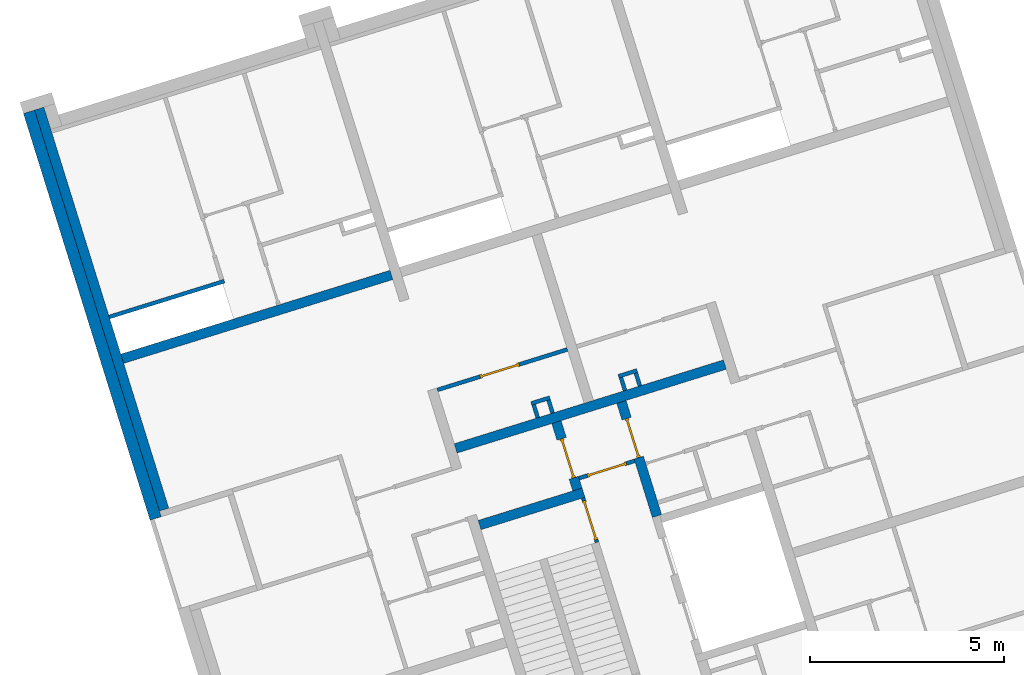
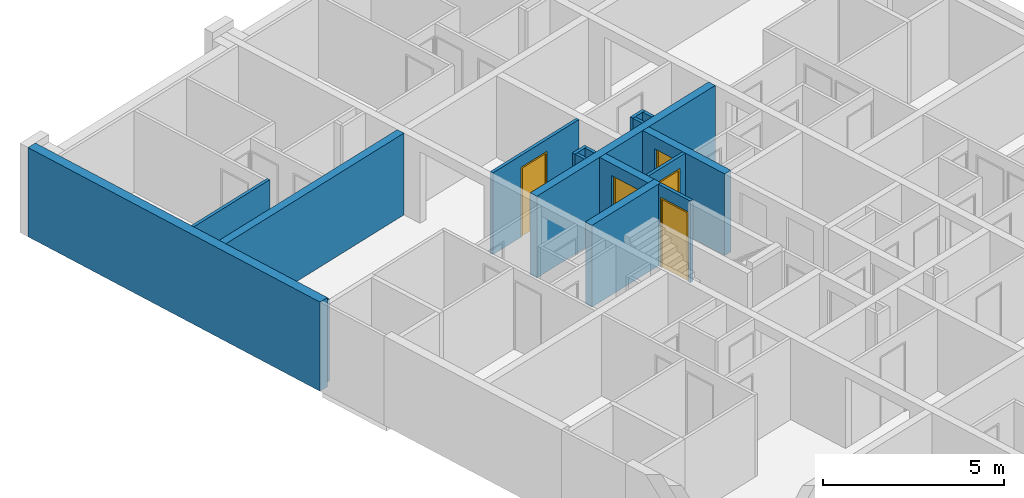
# One storey, part 5 of 12: 17 walls, 5 doors, 5 openings.
"""IFC4 building model written with IfcOpenShell, lengths in metres."""

from ifc_helpers import new_model, entity, si_unit, converted_unit, direction, frame, origin, place, context, subcontext, project, spatial, indexed_curve, outline, extrude, polygons, source, transform, mapped, material, constituent, constituent_set, type_object, type_shapes, element, fill, save


model = new_model("IFC4")

# Units and contexts
model_context = context("Model", 3, precision=1e-05, world=origin(), true_north=direction((6.12323399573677e-17, 1.0)))
body_context = subcontext(model_context, "Body", "Model", "MODEL_VIEW")
ifc_project = project(units=[si_unit("LENGTHUNIT", "METRE"), si_unit("AREAUNIT", "SQUARE_METRE"), converted_unit("PLANEANGLEUNIT", "DEGREE", entity("IfcPlaneAngleMeasure", 0.0174532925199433), si_unit("PLANEANGLEUNIT", "RADIAN"), dimensions=[0, 0, 0, 0, 0, 0, 0]), si_unit("VOLUMEUNIT", "CUBIC_METRE")], contexts=[model_context])

# Site, building, storey
site_placement = place(None, frame((13.1347999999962, 11.9886000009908, 0.0), z_axis=(0.0, 0.0, 1.0), x_axis=(0.954770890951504, 0.297342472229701, 0.0)))
site = spatial("IfcSite", under=ifc_project, at=site_placement, Name="Schiehaven", CompositionType="ELEMENT")
building_placement = place(site_placement, origin())
building = spatial("IfcBuilding", under=site, at=building_placement, Name="VORM huis", CompositionType="ELEMENT")
storey_placement = place(building_placement, frame((0.0, 0.0, 3.9)))
storey = spatial("IfcBuildingStorey", under=building, at=storey_placement, Name="01 eerste verdieping", CompositionType="ELEMENT", Elevation=3.9)

# Walls
ifc_material_1 = material(Name="beton_gewapend_ihw", Category="Miscellaneous")
wall_type_1 = type_object("IfcWallType", Name="Basic Wall:28_WA_skelet_wand 250mm_gen", PredefinedType="STANDARD")
wall_1_placement = place(storey_placement, frame((72.3750000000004, 22.2, 0.0), z_axis=(0.0, 0.0, 1.0), x_axis=(-1.0, 0.0, 0.0)))
element("IfcWall", 1, at=wall_1_placement, inside=storey, type_object=wall_type_1, material=ifc_material_1, Name="Constructieve wand", ObjectType="Wand", PredefinedType="NOTDEFINED", context=body_context, shape_type="SweptSolid", body=[
    extrude(outline(indexed_curve([(7.25000000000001, 0.125000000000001), (5.45998213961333e-16, 0.125000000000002), (-5.45998213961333e-16, -0.125000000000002), (7.25000000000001, -0.125000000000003), (7.25000000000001, 0.125000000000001)], self_intersect=False)), origin(), (0.0, 0.0, 1.0), 2.75),
])
wall_2_placement = place(storey_placement, frame((57.5000000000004, 22.9249999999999, 0.0), z_axis=(0.0, 0.0, 1.0), x_axis=(0.0, 1.0, 0.0)))
element("IfcWall", 2, at=wall_2_placement, inside=storey, type_object=wall_type_1, material=ifc_material_1, Name="Constructieve wand", ObjectType="Wand", PredefinedType="NOTDEFINED", context=body_context, shape_type="SweptSolid", body=[
    extrude(outline(indexed_curve([(10.8000000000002, 0.124999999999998), (0.0, 0.124999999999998), (0.0, -0.124999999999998), (10.8000000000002, -0.124999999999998), (10.8000000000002, 0.124999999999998)], self_intersect=False)), origin(), (0.0, 0.0, 1.0), 2.75),
])
ifc_material_2 = material(Name="ntb_ntb_ntb", Category="Miscellaneous")
wall_type_2 = type_object("IfcWallType", Name="Basic Wall: 300mm_gen", PredefinedType="STANDARD")
wall_3_placement = place(storey_placement, frame((57.2250000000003, 22.7749999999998, 0.0), z_axis=(0.0, 0.0, 1.0), x_axis=(0.0, 1.0, 0.0)))
element("IfcWall", 3, at=wall_3_placement, inside=storey, type_object=wall_type_2, material=ifc_material_2, Name="Gevelwand", ObjectType="Wand", PredefinedType="NOTDEFINED", context=body_context, shape_type="SweptSolid", body=[
    extrude(outline(indexed_curve([(10.9500000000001, 0.150000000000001), (5.85333583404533e-16, 0.150000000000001), (-5.85333583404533e-16, -0.150000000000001), (10.9500000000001, -0.15), (10.9500000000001, 0.150000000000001)], self_intersect=False)), origin(), (0.0, 0.0, 1.0), 3.0),
])
wall_type_3 = type_object("IfcWallType", Name="Basic Wall:22_WA_afbouw_binnenwand 250mm_gen", PredefinedType="STANDARD")
wall_4_placement = place(storey_placement, frame((65.1250000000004, 20.135, 0.0)))
element("IfcWall", 4, at=wall_4_placement, inside=storey, type_object=wall_type_3, material=ifc_material_2, Name="Binnenwand", ObjectType="Wand", PredefinedType="NOTDEFINED", context=body_context, shape_type="SweptSolid", body=[
    extrude(outline(indexed_curve([(2.80000000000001, 0.124999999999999), (4.98902105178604e-16, 0.125000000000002), (-4.98902105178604e-16, -0.125000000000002), (2.8, -0.125000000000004), (2.80000000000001, 0.124999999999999)], self_intersect=False)), origin(), (0.0, 0.0, 1.0), 2.75),
])

# Wall, opening, door
wall_5_placement = place(storey_placement, frame((67.8000000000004, 20.26, 0.0), z_axis=(0.0, 0.0, 1.0), x_axis=(0.0, 1.0, 0.0)))
wall_5 = element("IfcWall", 5, at=wall_5_placement, inside=storey, type_object=wall_type_3, material=ifc_material_2, Name="Binnenwand", ObjectType="Wand", PredefinedType="NOTDEFINED", context=body_context, shape_type="Tessellation", body=[
    polygons([(1.36499999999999, -0.12500000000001, 2.34999999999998), (1.36499999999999, -0.12500000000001, -5.41433564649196e-16), (1.81499999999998, -0.125000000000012, -5.41433564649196e-16), (1.81499999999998, -0.125000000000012, 2.75), (0.315000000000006, -0.125000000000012, 2.75), (0.215000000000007, -0.125000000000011, 2.75), (-4.33146851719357e-15, -0.12500000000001, 2.75), (-4.33146851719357e-15, -0.12500000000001, -5.41433564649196e-16), (0.215000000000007, -0.125000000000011, 0.0), (0.314999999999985, -0.125000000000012, -5.41433564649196e-16), (0.314999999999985, -0.125000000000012, 2.34999999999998), (1.81499999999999, 0.124999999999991, -5.41433564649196e-16), (1.36499999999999, 0.124999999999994, -5.41433564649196e-16), (1.36499999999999, 0.124999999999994, 2.34999999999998), (0.314999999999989, 0.125000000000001, 2.34999999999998), (0.314999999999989, 0.125000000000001, -5.41433564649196e-16), (0.0, 0.125000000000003, -5.41433564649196e-16), (0.0, 0.125000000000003, 2.75), (1.81499999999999, 0.124999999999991, 2.75)], [[[1, 2, 3, 4, 5, 6, 7, 8, 9, 10, 11]], [[12, 13, 14, 15, 16, 17, 18, 19]], [[10, 9, 8, 17, 16]], [[4, 3, 12, 19]], [[7, 6, 5, 4, 19, 18]], [[16, 15, 11, 10]], [[14, 13, 2, 1]], [[15, 14, 1, 11]], [[8, 7, 18, 17]], [[3, 2, 13, 12]]], closed=True),
])
opening_1_placement = place(wall_5_placement, frame((1.36499999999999, 0.125000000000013, 0.0)))
opening_1 = element("IfcOpeningElement", 6, at=opening_1_placement, cuts=wall_5, Name="Woningtoegangsdeur", PredefinedType="OPENING", context=body_context, shape_type="SweptSolid", body=[
    extrude(outline(indexed_curve([(2.34999999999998, 1.05), (0.0, 1.05), (0.0, 3.98354849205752e-29), (2.34999999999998, 3.98354849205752e-29), (2.34999999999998, 1.05)], self_intersect=False)), frame((0.0, 0.0, 0.0), z_axis=(0.0, -1.0, 0.0), x_axis=(0.0, 0.0, 1.0)), (0.0, 0.0, 1.0), 0.25),
])
ifc_material_3 = material(Name="PD_a_binnenwandopeningen", Category="Miscellaneous")
ifc_constituent_1 = constituent(ifc_material_3, Name="PD_a_binnenwandopeningen", Category="Miscellaneous")
ifc_material_4 = material(Name="metaal_aluminium_ntb", Category="Miscellaneous")
ifc_constituent_2 = constituent(ifc_material_4, Name="metaal_aluminium_ntb", Category="Miscellaneous")
ifc_constituent_set_1 = constituent_set(constituents=[ifc_constituent_1, ifc_constituent_2])
ifc_constituent_3 = constituent(ifc_material_3, Name="PD_a_binnenwandopeningen", Category="Miscellaneous")
ifc_constituent_4 = constituent(ifc_material_4, Name="Panel", Category="Miscellaneous")
ifc_constituent_set_2 = constituent_set(constituents=[ifc_constituent_3, ifc_constituent_4])
door_type_1 = type_object("IfcDoorType", Name="32_DO_binnendeur enkel:woningtoegangsdeur", OperationType="REVOLVING", PredefinedType="DOOR", material=ifc_constituent_set_2)
shared_shape_1 = source(origin(), body_context, "Body", "SweptSolid", [
    extrude(outline(indexed_curve([(-1.16249999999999, -0.525000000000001), (1.18749999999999, -0.525), (1.18749999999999, 0.525000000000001), (-1.16249999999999, 0.525000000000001), (-1.16249999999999, 0.475), (1.13749999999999, 0.475), (1.13749999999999, -0.475), (-1.16249999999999, -0.475), (-1.16249999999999, -0.525000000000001)], self_intersect=False)), frame((0.525000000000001, 0.0749999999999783, 1.16249999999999), z_axis=(0.0, 1.0, 0.0), x_axis=(0.0, 0.0, 1.0)), (0.0, 0.0, 1.0), 0.1),
    extrude(outline(indexed_curve([(-0.025, -0.475), (0.025, -0.475), (0.025, 0.475), (-0.025, 0.475), (-0.025, -0.475)], self_intersect=False)), frame((0.525000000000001, 0.12499999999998, 0.0), z_axis=(0.0, 0.0, 1.0), x_axis=(0.0, 1.0, 0.0)), (0.0, 0.0, 1.0), 2.29999999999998),
])
type_shapes(door_type_1, [shared_shape_1])
door_1_placement = place(opening_1_placement, frame((0.0, 0.0, 0.0), z_axis=(0.0, 0.0, 1.0), x_axis=(-1.0, 0.0, 0.0)))
door_1 = element("IfcDoor", 7, at=door_1_placement, inside=storey, type_object=door_type_1, material=ifc_constituent_set_1, Name="Woningtoegangsdeur", ObjectType="Deur", OperationType="REVOLVING", OverallHeight=2.34999999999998, OverallWidth=1.05, PredefinedType="DOOR", context=body_context, shape_type="MappedRepresentation", body=[
    mapped(shared_shape_1, transform((0.0, 0.0, 0.0), scale=1.0)),
])
fill(opening_1, door_1)

wall_6_placement = place(storey_placement, frame((69.5500000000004, 19.0, 0.0), z_axis=(0.0, 0.0, 1.0), x_axis=(0.0, 1.0, 0.0)))
wall_6 = element("IfcWall", 8, at=wall_6_placement, inside=storey, type_object=wall_type_3, material=ifc_material_2, Name="Binnenwand", ObjectType="Wand", PredefinedType="NOTDEFINED", context=body_context, shape_type="Tessellation", body=[
    polygons([(2.62500000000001, -0.125000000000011, 2.34999999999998), (2.62500000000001, -0.125000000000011, -5.41433564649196e-16), (3.07499999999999, -0.125000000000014, -5.41433564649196e-16), (3.07499999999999, -0.125000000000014, 2.75), (2.16573425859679e-15, -0.125000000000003, 2.75), (2.16573425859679e-15, -0.125000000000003, -5.41433564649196e-16), (1.575, -0.125000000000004, -5.41433564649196e-16), (1.575, -0.125000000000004, 2.34999999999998), (3.075, 0.124999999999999, -5.41433564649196e-16), (2.62500000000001, 0.125000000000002, -5.41433564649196e-16), (2.62500000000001, 0.125000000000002, 2.34999999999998), (1.575, 0.125, 2.34999999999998), (1.575, 0.125, -5.41433564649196e-16), (1.47500000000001, 0.125, 0.0), (0.0, 0.125000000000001, -5.41433564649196e-16), (0.0, 0.125000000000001, 2.75), (1.47500000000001, 0.125, 2.75), (1.57500000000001, 0.125, 2.75), (3.075, 0.124999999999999, 2.75)], [[[1, 2, 3, 4, 5, 6, 7, 8]], [[9, 10, 11, 12, 13, 14, 15, 16, 17, 18, 19]], [[7, 6, 15, 14, 13]], [[4, 3, 9, 19]], [[5, 4, 19, 18, 17, 16]], [[6, 5, 16, 15]], [[13, 12, 8, 7]], [[11, 10, 2, 1]], [[12, 11, 1, 8]], [[3, 2, 10, 9]]], closed=True),
])
opening_2_placement = place(wall_6_placement, frame((1.57500000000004, -0.124999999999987, 0.0)))
opening_2 = element("IfcOpeningElement", 9, at=opening_2_placement, cuts=wall_6, Name="Woningtoegangsdeur", PredefinedType="OPENING", context=body_context, shape_type="SweptSolid", body=[
    extrude(outline(indexed_curve([(2.34999999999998, 4.05964127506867e-29), (2.34999999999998, 1.05), (0.0, 1.05), (0.0, 4.05964127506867e-29), (2.34999999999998, 4.05964127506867e-29)], self_intersect=False)), frame((0.0, 0.0, 0.0), z_axis=(0.0, 1.0, 0.0), x_axis=(0.0, 0.0, 1.0)), (0.0, 0.0, 1.0), 0.25),
])
ifc_constituent_5 = constituent(ifc_material_3, Name="PD_a_binnenwandopeningen", Category="Miscellaneous")
ifc_constituent_6 = constituent(ifc_material_4, Name="metaal_aluminium_ntb", Category="Miscellaneous")
ifc_constituent_set_3 = constituent_set(constituents=[ifc_constituent_5, ifc_constituent_6])
ifc_constituent_7 = constituent(ifc_material_3, Name="PD_a_binnenwandopeningen", Category="Miscellaneous")
ifc_constituent_8 = constituent(ifc_material_4, Name="Panel", Category="Miscellaneous")
ifc_constituent_set_4 = constituent_set(constituents=[ifc_constituent_7, ifc_constituent_8])
door_type_2 = type_object("IfcDoorType", Name="32_DO_binnendeur enkel:woningtoegangsdeur", OperationType="REVOLVING", PredefinedType="DOOR", material=ifc_constituent_set_4)
shared_shape_2 = source(origin(), body_context, "Body", "SweptSolid", [
    extrude(outline(indexed_curve([(0.475, -1.16249999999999), (0.525000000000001, -1.16249999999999), (0.525000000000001, 1.18749999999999), (-0.525000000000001, 1.18749999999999), (-0.525000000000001, -1.16249999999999), (-0.475, -1.16249999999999), (-0.475, 1.13749999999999), (0.475, 1.13749999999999), (0.475, -1.16249999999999)], self_intersect=False)), frame((0.525000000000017, 0.174999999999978, 1.16249999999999), z_axis=(0.0, -1.0, 0.0), x_axis=(1.0, 0.0, 0.0)), (0.0, 0.0, 1.0), 0.1),
    extrude(outline(indexed_curve([(-0.475, -0.025), (0.475, -0.025), (0.475, 0.025), (-0.475, 0.025), (-0.475, -0.025)], self_intersect=False)), frame((0.525000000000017, 0.12499999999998, 0.0)), (0.0, 0.0, 1.0), 2.29999999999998),
])
type_shapes(door_type_2, [shared_shape_2])
door_2_placement = place(opening_2_placement, origin())
door_2 = element("IfcDoor", 10, at=door_2_placement, inside=storey, type_object=door_type_2, material=ifc_constituent_set_3, Name="Woningtoegangsdeur", ObjectType="Deur", OperationType="REVOLVING", OverallHeight=2.34999999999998, OverallWidth=1.05, PredefinedType="DOOR", context=body_context, shape_type="MappedRepresentation", body=[
    mapped(shared_shape_2, transform((0.0, 0.0, 0.0), scale=1.0)),
])
fill(opening_2, door_2)

# Wall
wall_7_placement = place(storey_placement, frame((64.8750000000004, 26.95, 0.0), z_axis=(0.0, 0.0, 1.0), x_axis=(-1.0, 0.0, 0.0)))
element("IfcWall", 11, at=wall_7_placement, inside=storey, type_object=wall_type_3, material=ifc_material_2, Name="Binnenwand", ObjectType="Wand", PredefinedType="NOTDEFINED", context=body_context, shape_type="SweptSolid", body=[
    extrude(outline(indexed_curve([(7.24999999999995, 0.125000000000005), (6.85879083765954e-16, 0.125000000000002), (-6.85879083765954e-16, -0.125000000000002), (7.24999999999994, -0.124999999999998), (7.24999999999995, 0.125000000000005)], self_intersect=False)), origin(), (0.0, 0.0, 1.0), 2.75),
])

# Wall, opening, door
wall_type_4 = type_object("IfcWallType", Name="Basic Wall:22_WA_afbouw_binnenwand 100mm_gen", PredefinedType="STANDARD")
wall_8_placement = place(storey_placement, frame((67.8750000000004, 20.01, 0.0), z_axis=(0.0, 0.0, 1.0), x_axis=(0.0, -1.0, 0.0)))
wall_8 = element("IfcWall", 12, at=wall_8_placement, inside=storey, type_object=wall_type_4, material=ifc_material_2, Name="Binnenwand", ObjectType="Wand", PredefinedType="NOTDEFINED", context=body_context, shape_type="Tessellation", body=[
    polygons([(1.19999999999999, -0.0500000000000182, -5.41433564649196e-16), (1.19999999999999, -0.0500000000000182, 2.75), (0.0, -0.0500000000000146, 2.75), (0.0, -0.0500000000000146, -5.41433564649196e-16), (0.0750000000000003, -0.0500000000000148, -5.41433564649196e-16), (0.0750000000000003, -0.0500000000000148, 2.34999999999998), (1.125, -0.050000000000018, 2.34999999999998), (1.125, -0.050000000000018, -5.41433564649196e-16), (1.19999999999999, 0.0499999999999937, 2.75), (1.19999999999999, 0.0499999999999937, -5.41433564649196e-16), (1.125, 0.049999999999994, -5.41433564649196e-16), (1.125, 0.049999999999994, 2.34999999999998), (0.0750000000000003, 0.0499999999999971, 2.34999999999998), (0.0750000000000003, 0.0499999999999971, -5.41433564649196e-16), (0.0, 0.0499999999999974, -5.41433564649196e-16), (0.0, 0.0499999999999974, 2.75)], [[[1, 2, 3, 4, 5, 6, 7, 8]], [[9, 10, 11, 12, 13, 14, 15, 16]], [[4, 15, 14, 5]], [[2, 1, 10, 9]], [[3, 2, 9, 16]], [[13, 6, 5, 14]], [[6, 13, 12, 7]], [[7, 12, 11, 8]], [[4, 3, 16, 15]], [[10, 1, 8, 11]]], closed=True),
])
opening_3_placement = place(wall_8_placement, frame((1.125, 0.0500000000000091, 0.0)))
opening_3 = element("IfcOpeningElement", 13, at=opening_3_placement, cuts=wall_8, Name="Vluchtdeur", PredefinedType="OPENING", context=body_context, shape_type="SweptSolid", body=[
    extrude(outline(indexed_curve([(2.34999999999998, 9.67690789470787e-30), (2.34999999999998, 1.05), (0.0, 1.05), (0.0, 9.67690789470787e-30), (2.34999999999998, 9.67690789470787e-30)], self_intersect=False)), frame((0.0, 0.0, 0.0), z_axis=(0.0, -1.0, 0.0), x_axis=(0.0, 0.0, 1.0)), (0.0, 0.0, 1.0), 0.1),
])
ifc_constituent_9 = constituent(ifc_material_3, Name="PD_a_binnenwandopeningen", Category="Miscellaneous")
ifc_constituent_10 = constituent(ifc_material_4, Name="metaal_aluminium_ntb", Category="Miscellaneous")
ifc_constituent_set_5 = constituent_set(constituents=[ifc_constituent_9, ifc_constituent_10])
ifc_constituent_11 = constituent(ifc_material_3, Name="PD_a_binnenwandopeningen", Category="Miscellaneous")
ifc_constituent_12 = constituent(ifc_material_4, Name="Panel", Category="Miscellaneous")
ifc_constituent_set_6 = constituent_set(constituents=[ifc_constituent_11, ifc_constituent_12])
door_type_3 = type_object("IfcDoorType", Name="32_DO_binnendeur enkel:binnendeur zelfsluitend 30min", OperationType="NOTDEFINED", PredefinedType="DOOR", material=ifc_constituent_set_6)
shared_shape_3 = source(origin(), body_context, "Body", "SweptSolid", [
    extrude(outline(indexed_curve([(0.475, -1.16249999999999), (0.525, -1.16249999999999), (0.525, 1.18749999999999), (-0.525, 1.18749999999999), (-0.525, -1.16249999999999), (-0.475, -1.16249999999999), (-0.475, 1.13749999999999), (0.475, 1.13749999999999), (0.475, -1.16249999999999)], self_intersect=False)), frame((0.525000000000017, 0.100000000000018, 1.16249999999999), z_axis=(0.0, -1.0, 0.0), x_axis=(1.0, 0.0, 0.0)), (0.0, 0.0, 1.0), 0.1),
    extrude(outline(indexed_curve([(-0.475, -0.025), (0.475, -0.025), (0.475, 0.025), (-0.475, 0.025), (-0.475, -0.025)], self_intersect=False)), frame((0.525000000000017, 0.0499999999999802, 0.0)), (0.0, 0.0, 1.0), 2.29999999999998),
])
type_shapes(door_type_3, [shared_shape_3])
door_3_placement = place(opening_3_placement, frame((0.0, 0.0, 0.0), z_axis=(0.0, 0.0, 1.0), x_axis=(-1.0, 0.0, 0.0)))
door_3 = element("IfcDoor", 14, at=door_3_placement, inside=storey, type_object=door_type_3, material=ifc_constituent_set_5, Name="Vluchtdeur", ObjectType="Deur", OperationType="NOTDEFINED", OverallHeight=2.34999999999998, OverallWidth=1.05, PredefinedType="DOOR", context=body_context, shape_type="MappedRepresentation", body=[
    mapped(shared_shape_3, transform((0.0, 0.0, 0.0), scale=1.0)),
])
fill(opening_3, door_3)

wall_9_placement = place(storey_placement, frame((67.9250000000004, 20.525, 0.0)))
wall_9 = element("IfcWall", 15, at=wall_9_placement, inside=storey, type_object=wall_type_4, material=ifc_material_2, Name="Binnenwand", ObjectType="Wand", PredefinedType="NOTDEFINED", context=body_context, shape_type="Tessellation", body=[
    polygons([(1.49999999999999, -0.0499999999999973, 2.75), (-3.09224517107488e-15, -0.0499999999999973, 2.75), (-3.09224517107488e-15, -0.0499999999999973, -5.41433564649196e-16), (0.22499999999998, -0.0499999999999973, -5.41433564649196e-16), (0.22499999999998, -0.0499999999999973, 2.34999999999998), (1.27499999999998, -0.0499999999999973, 2.34999999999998), (1.27499999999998, -0.0499999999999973, -5.41433564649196e-16), (1.49999999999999, -0.0499999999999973, -5.41433564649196e-16), (-3.14965753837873e-15, 0.0500000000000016, 2.75), (1.49999999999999, 0.0500000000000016, 2.75), (1.49999999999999, 0.0500000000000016, 2.34999999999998), (1.49999999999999, 0.0500000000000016, -5.41433564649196e-16), (1.27499999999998, 0.0500000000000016, -5.41433564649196e-16), (1.27499999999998, 0.0500000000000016, 2.34999999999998), (0.22499999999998, 0.0500000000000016, 2.34999999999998), (0.22499999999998, 0.0500000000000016, -5.41433564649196e-16), (-3.14965753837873e-15, 0.0500000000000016, -5.41433564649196e-16), (-3.14965753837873e-15, 0.0500000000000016, 2.34999999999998)], [[[1, 2, 3, 4, 5, 6, 7, 8]], [[9, 10, 11, 12, 13, 14, 15, 16, 17, 18]], [[3, 17, 16, 4]], [[2, 1, 10, 9]], [[15, 5, 4, 16]], [[5, 15, 14, 6]], [[6, 14, 13, 7]], [[3, 2, 9, 18, 17]], [[1, 8, 12, 11, 10]], [[12, 8, 7, 13]]], closed=True),
])
opening_4_placement = place(wall_9_placement, frame((1.275, 0.0500000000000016, 0.0)))
opening_4 = element("IfcOpeningElement", 16, at=opening_4_placement, cuts=wall_9, Name="Vluchtdeur", PredefinedType="OPENING", context=body_context, shape_type="SweptSolid", body=[
    extrude(outline(indexed_curve([(2.34999999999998, 0.0), (2.34999999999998, 1.05), (0.0, 1.05), (0.0, 0.0), (2.34999999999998, 0.0)], self_intersect=False)), frame((0.0, 0.0, 0.0), z_axis=(0.0, -1.0, 0.0), x_axis=(0.0, 0.0, 1.0)), (0.0, 0.0, 1.0), 0.1),
])
ifc_constituent_13 = constituent(ifc_material_3, Name="PD_a_binnenwandopeningen", Category="Miscellaneous")
ifc_constituent_14 = constituent(ifc_material_4, Name="metaal_aluminium_ntb", Category="Miscellaneous")
ifc_constituent_set_7 = constituent_set(constituents=[ifc_constituent_13, ifc_constituent_14])
door_4_placement = place(opening_4_placement, frame((0.0, 0.0, 0.0), z_axis=(0.0, 0.0, 1.0), x_axis=(-1.0, 0.0, 0.0)))
door_4 = element("IfcDoor", 17, at=door_4_placement, inside=storey, type_object=door_type_3, material=ifc_constituent_set_7, Name="Vluchtdeur", ObjectType="Deur", OperationType="NOTDEFINED", OverallHeight=2.34999999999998, OverallWidth=1.05, PredefinedType="DOOR", context=body_context, shape_type="MappedRepresentation", body=[
    mapped(shared_shape_3, transform((0.0, 0.0, 0.0), scale=1.0)),
])
fill(opening_4, door_4)

# Wall
wall_10_placement = place(storey_placement, frame((60.7250000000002, 28.0749999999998, 0.0), z_axis=(0.0, 0.0, 1.0), x_axis=(-1.0, 0.0, 0.0)))
element("IfcWall", 18, at=wall_10_placement, inside=storey, type_object=wall_type_4, material=ifc_material_2, Name="Binnenwand", ObjectType="Wand", PredefinedType="NOTDEFINED", context=body_context, shape_type="SweptSolid", body=[
    extrude(outline(indexed_curve([(3.10000000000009, 0.0500000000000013), (-4.84095551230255e-16, 0.0500000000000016), (4.84095551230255e-16, -0.0500000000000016), (3.10000000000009, -0.0500000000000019), (3.10000000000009, 0.0500000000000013)], self_intersect=False)), origin(), (0.0, 0.0, 1.0), 2.75),
])

# Wall, opening, door
wall_11_placement = place(storey_placement, frame((68.6249999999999, 23.7749999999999, 0.0), z_axis=(0.0, 0.0, 1.0), x_axis=(-1.0, 0.0, 0.0)))
wall_11 = element("IfcWall", 19, at=wall_11_placement, inside=storey, type_object=wall_type_4, material=ifc_material_2, Name="Binnenwand", ObjectType="Wand", PredefinedType="NOTDEFINED", context=body_context, shape_type="Tessellation", body=[
    polygons([(3.50000000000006, -0.049999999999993, -5.41433564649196e-16), (3.50000000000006, -0.049999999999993, 2.75), (-3.94719987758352e-15, -0.0499999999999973, 2.75), (-3.94719987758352e-15, -0.0499999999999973, -5.41433564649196e-16), (1.29999999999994, -0.0499999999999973, -5.41433564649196e-16), (1.29999999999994, -0.0499999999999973, 2.34999999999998), (2.34999999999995, -0.049999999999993, 2.34999999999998), (2.34999999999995, -0.049999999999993, -5.41433564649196e-16), (3.50000000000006, 0.050000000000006, 2.75), (3.50000000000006, 0.050000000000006, -5.41433564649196e-16), (2.34999999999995, 0.050000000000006, -5.41433564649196e-16), (2.34999999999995, 0.050000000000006, 2.34999999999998), (1.29999999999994, 0.0500000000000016, 2.34999999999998), (1.29999999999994, 0.0500000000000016, -5.41433564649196e-16), (-3.60338609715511e-15, 0.0500000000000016, -5.41433564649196e-16), (-3.60338609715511e-15, 0.0500000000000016, 2.75)], [[[1, 2, 3, 4, 5, 6, 7, 8]], [[9, 10, 11, 12, 13, 14, 15, 16]], [[4, 15, 14, 5]], [[2, 1, 10, 9]], [[3, 2, 9, 16]], [[4, 3, 16, 15]], [[7, 12, 11, 8]], [[13, 6, 5, 14]], [[12, 7, 6, 13]], [[10, 1, 8, 11]]], closed=True),
])
opening_5_placement = place(wall_11_placement, frame((2.34999999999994, 0.0500000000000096, 0.0)))
opening_5 = element("IfcOpeningElement", 20, at=opening_5_placement, cuts=wall_11, Name="Binnendeur", PredefinedType="OPENING", context=body_context, shape_type="SweptSolid", body=[
    extrude(outline(indexed_curve([(2.34999999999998, 1.24198501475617e-29), (2.34999999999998, 1.05), (0.0, 1.05), (0.0, 1.24198501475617e-29), (2.34999999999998, 1.24198501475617e-29)], self_intersect=False)), frame((0.0, 0.0, 0.0), z_axis=(0.0, -1.0, 0.0), x_axis=(0.0, 0.0, 1.0)), (0.0, 0.0, 1.0), 0.1),
])
ifc_constituent_15 = constituent(ifc_material_3, Name="PD_a_binnenwandopeningen", Category="Miscellaneous")
ifc_constituent_16 = constituent(ifc_material_4, Name="metaal_aluminium_ntb", Category="Miscellaneous")
ifc_constituent_set_8 = constituent_set(constituents=[ifc_constituent_15, ifc_constituent_16])
ifc_constituent_17 = constituent(ifc_material_3, Name="PD_a_binnenwandopeningen", Category="Miscellaneous")
ifc_constituent_18 = constituent(ifc_material_4, Name="Panel", Category="Miscellaneous")
ifc_constituent_set_9 = constituent_set(constituents=[ifc_constituent_17, ifc_constituent_18])
door_type_4 = type_object("IfcDoorType", Name="32_DO_binnendeur enkel:binnendeur", OperationType="REVOLVING", PredefinedType="DOOR", material=ifc_constituent_set_9)
shared_shape_4 = source(origin(), body_context, "Body", "SweptSolid", [
    extrude(outline(indexed_curve([(0.475, -1.16249999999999), (0.525, -1.16249999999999), (0.525, 1.18749999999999), (-0.525, 1.18749999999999), (-0.525, -1.16249999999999), (-0.475, -1.16249999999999), (-0.475, 1.13749999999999), (0.475, 1.13749999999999), (0.475, -1.16249999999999)], self_intersect=False)), frame((0.525000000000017, 0.100000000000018, 1.16249999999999), z_axis=(0.0, -1.0, 0.0), x_axis=(1.0, 0.0, 0.0)), (0.0, 0.0, 1.0), 0.1),
    extrude(outline(indexed_curve([(-0.475, -0.025), (0.475, -0.025), (0.475, 0.025), (-0.475, 0.025), (-0.475, -0.025)], self_intersect=False)), frame((0.525000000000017, 0.0499999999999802, 0.0)), (0.0, 0.0, 1.0), 2.29999999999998),
])
type_shapes(door_type_4, [shared_shape_4])
door_5_placement = place(opening_5_placement, frame((0.0, 0.0, 0.0), z_axis=(0.0, 0.0, 1.0), x_axis=(-1.0, 0.0, 0.0)))
door_5 = element("IfcDoor", 21, at=door_5_placement, inside=storey, type_object=door_type_4, material=ifc_constituent_set_8, Name="Binnendeur", ObjectType="Deur", OperationType="REVOLVING", OverallHeight=2.34999999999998, OverallWidth=1.05, PredefinedType="DOOR", context=body_context, shape_type="MappedRepresentation", body=[
    mapped(shared_shape_4, transform((0.0, 0.0, 0.0), scale=1.0)),
])
fill(opening_5, door_5)

# Walls
wall_12_placement = place(storey_placement, frame((67.375, 22.3249999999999, 0.0), z_axis=(0.0, 0.0, 1.0), x_axis=(0.0, 1.0, 0.0)))
element("IfcWall", 22, at=wall_12_placement, inside=storey, type_object=wall_type_4, material=ifc_material_2, Name="Binnenwand", ObjectType="Wand", PredefinedType="NOTDEFINED", context=body_context, shape_type="SweptSolid", body=[
    extrude(outline(indexed_curve([(0.350000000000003, 0.0499999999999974), (-1.37274748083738e-17, 0.0499999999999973), (1.37274748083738e-17, -0.0499999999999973), (0.350000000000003, -0.0499999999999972), (0.350000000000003, 0.0499999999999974)], self_intersect=False)), origin(), (0.0, 0.0, 1.0), 2.75),
])
wall_13_placement = place(storey_placement, frame((67.775, 22.3249999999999, 0.0), z_axis=(0.0, 0.0, 1.0), x_axis=(0.0, 1.0, 0.0)))
element("IfcWall", 23, at=wall_13_placement, inside=storey, type_object=wall_type_4, material=ifc_material_2, Name="Binnenwand", ObjectType="Wand", PredefinedType="NOTDEFINED", context=body_context, shape_type="SweptSolid", body=[
    extrude(outline(indexed_curve([(0.350000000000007, 0.0499999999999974), (-1.37274748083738e-17, 0.0499999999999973), (1.37274748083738e-17, -0.0499999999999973), (0.350000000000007, -0.0499999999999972), (0.350000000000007, 0.0499999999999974)], self_intersect=False)), origin(), (0.0, 0.0, 1.0), 2.75),
])
wall_14_placement = place(storey_placement, frame((67.825, 22.7249999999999, 0.0), z_axis=(0.0, 0.0, 1.0), x_axis=(-1.0, 0.0, 0.0)))
element("IfcWall", 24, at=wall_14_placement, inside=storey, type_object=wall_type_4, material=ifc_material_2, Name="Binnenwand", ObjectType="Wand", PredefinedType="NOTDEFINED", context=body_context, shape_type="SweptSolid", body=[
    extrude(outline(indexed_curve([(0.5, 0.0500000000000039), (6.37831675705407e-16, 0.0500000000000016), (-6.37831675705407e-16, -0.0500000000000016), (0.499999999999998, -0.0499999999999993), (0.5, 0.0500000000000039)], self_intersect=False)), origin(), (0.0, 0.0, 1.0), 2.75),
])
wall_15_placement = place(storey_placement, frame((70.125, 22.3249999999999, 0.0), z_axis=(0.0, 0.0, 1.0), x_axis=(0.0, 1.0, 0.0)))
element("IfcWall", 25, at=wall_15_placement, inside=storey, type_object=wall_type_4, material=ifc_material_2, Name="Binnenwand", ObjectType="Wand", PredefinedType="NOTDEFINED", context=body_context, shape_type="SweptSolid", body=[
    extrude(outline(indexed_curve([(0.350000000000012, 0.0499999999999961), (1.65882392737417e-16, 0.0499999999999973), (-1.65882392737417e-16, -0.0499999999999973), (0.350000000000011, -0.0499999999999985), (0.350000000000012, 0.0499999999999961)], self_intersect=False)), origin(), (0.0, 0.0, 1.0), 2.75),
])
wall_16_placement = place(storey_placement, frame((69.725, 22.3249999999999, 0.0), z_axis=(0.0, 0.0, 1.0), x_axis=(0.0, 1.0, 0.0)))
element("IfcWall", 26, at=wall_16_placement, inside=storey, type_object=wall_type_4, material=ifc_material_2, Name="Binnenwand", ObjectType="Wand", PredefinedType="NOTDEFINED", context=body_context, shape_type="SweptSolid", body=[
    extrude(outline(indexed_curve([(0.350000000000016, 0.0499999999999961), (1.65882392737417e-16, 0.0499999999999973), (-1.65882392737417e-16, -0.0499999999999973), (0.350000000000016, -0.0499999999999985), (0.350000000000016, 0.0499999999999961)], self_intersect=False)), origin(), (0.0, 0.0, 1.0), 2.75),
])
wall_17_placement = place(storey_placement, frame((69.675, 22.7249999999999, 0.0)))
element("IfcWall", 27, at=wall_17_placement, inside=storey, type_object=wall_type_4, material=ifc_material_2, Name="Binnenwand", ObjectType="Wand", PredefinedType="NOTDEFINED", context=body_context, shape_type="SweptSolid", body=[
    extrude(outline(indexed_curve([(0.499999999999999, 0.0500000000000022), (-4.85676757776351e-16, 0.0500000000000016), (4.85676757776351e-16, -0.0500000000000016), (0.499999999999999, -0.0500000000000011), (0.499999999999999, 0.0500000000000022)], self_intersect=False)), origin(), (0.0, 0.0, 1.0), 2.75),
])

save(model, "model.ifc")
